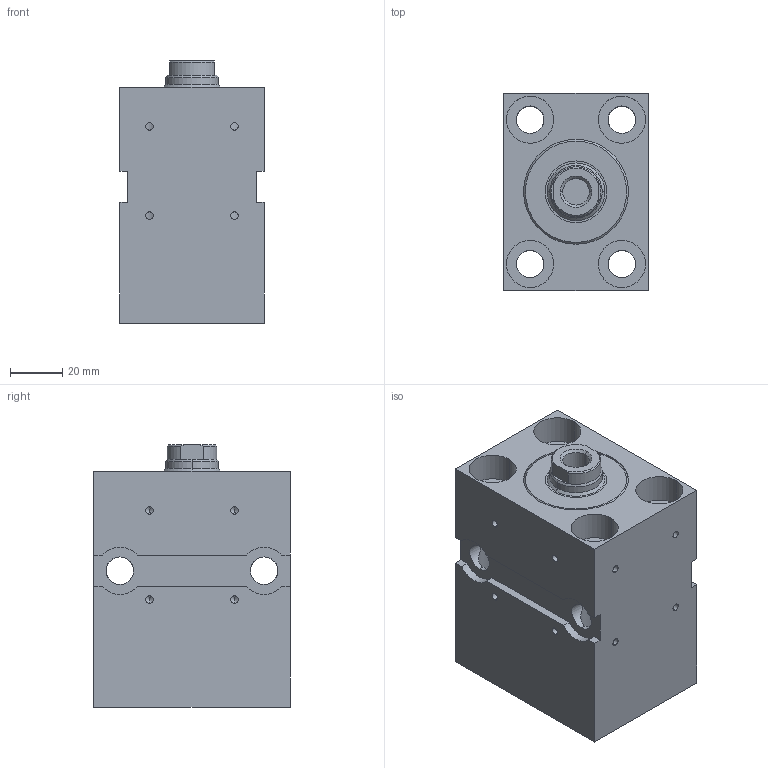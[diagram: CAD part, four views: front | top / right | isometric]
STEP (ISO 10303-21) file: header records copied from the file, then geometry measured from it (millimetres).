
FILE_DESCRIPTION (( 'STEP AP203' ), '1' );
FILE_NAME ('BZ_500.32_20.78.201.040 PP.KBC38__DH_0_.STEP', '2022-05-23T14:14:37', ( '' ), ( '' ), 'SwSTEP 2.0', 'SolidWorks 2020', '' );
FILE_SCHEMA (( 'CONFIG_CONTROL_DESIGN' ));
Length unit declared in the file: millimetre
Products named in the file (6): _Dichtungssatz f. BZ_RZ_FZ.32_20.xx.201.40 Artikelnr._ 013411(0)^BZ_500.32_20.78.201.040 PP.KBC38__DH_0_(2)_BZ_500.32_20.78.201.040 PP.KBC38__DH_0_; _Verschraubung komplett mit Dichtung f. BZ_RZ_FZ.32_20.201, Art.-Nr._ 041671(201)^BZ_500.32_20.78.201.040 PP.KBC38__DH_0_(2)_BZ_500.32_20.78.201.040 PP.KBC38__DH_0_; BZ_500.32_20.78.201.040 PP.KBC38__DH_0_(2)^BZ_500.32_20.78.201.040 PP.KBC38__DH_0_; _Gehaeuse f. BZ500.32_20.Fehler in IDBF.201.40Fehler in IDNT00(1338frei278000))7^BZ_500.32_20.78.201.040 PP.KBC38__DH_0_(2)_BZ_500.32_20.78.201.040 PP.KBC38__DH_0_; BZ_500.32_20.78.201.040 PP.KBC38__DH_0_; _Kolbenstange komplett f. BZ_RZ_FZ.32_20.xx.201.40(0_11 1 12 1.75 0 0 10 15 0 0 0)0^BZ_500.32_20.78.201.040 PP.KBC38__DH_0_(2)_BZ_500.32_20.78.201.040 PP.KBC38__DH_0_
Assembly tree (5 placements, depth 3):
  BZ_500.32_20.78.201.040 PP.KBC38__DH_0_
    BZ_500.32_20.78.201.040 PP.KBC38__DH_0_(2)^BZ_500.32_20.78.201.040 PP.KBC38__DH_0_
      _Gehaeuse f. BZ500.32_20.Fehler in IDBF.201.40Fehler in IDNT00(1338frei278000))7^BZ_500.32_20.78.201.040 PP.KBC38__DH_0_(2)_BZ_500.32_20.78.201.040 PP.KBC38__DH_0_
      _Verschraubung komplett mit Dichtung f. BZ_RZ_FZ.32_20.201, Art.-Nr._ 041671(201)^BZ_500.32_20.78.201.040 PP.KBC38__DH_0_(2)_BZ_500.32_20.78.201.040 PP.KBC38__DH_0_
      _Dichtungssatz f. BZ_RZ_FZ.32_20.xx.201.40 Artikelnr._ 013411(0)^BZ_500.32_20.78.201.040 PP.KBC38__DH_0_(2)_BZ_500.32_20.78.201.040 PP.KBC38__DH_0_
      _Kolbenstange komplett f. BZ_RZ_FZ.32_20.xx.201.40(0_11 1 12 1.75 0 0 10 15 0 0 0)0^BZ_500.32_20.78.201.040 PP.KBC38__DH_0_(2)_BZ_500.32_20.78.201.040 PP.KBC38__DH_0_
Bounding box: 55 x 75 x 100 mm (x, y, z)
Volume: 290863.9 mm3; surface area: 73806.1 mm2
Topology: 4 solids, 4 shells, 199 faces, 496 edges, 304 vertices
Faces by surface type: cylinder 117, plane 52, cone 30
Entity records: 6898 total; most frequent: CARTESIAN_POINT 1493, DIRECTION 1057, ORIENTED_EDGE 960, EDGE_CURVE 480, AXIS2_PLACEMENT_3D 419, VERTEX_POINT 304, EDGE_LOOP 250, LINE 219
